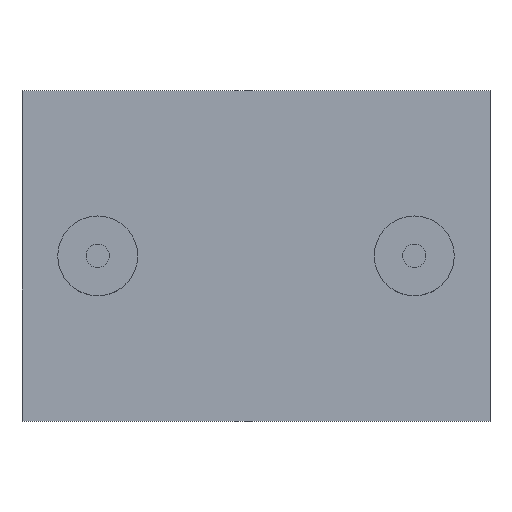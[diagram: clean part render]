
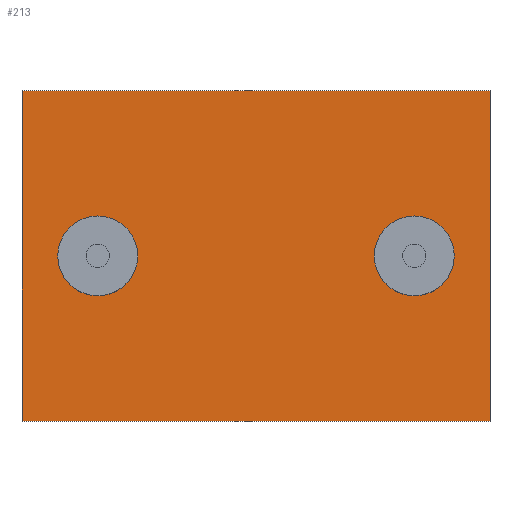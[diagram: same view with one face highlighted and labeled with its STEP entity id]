
A CAD part, top view. The second image highlights one B-rep face of the part: STEP entity #213.
In plain terms, the highlighted planar face has unit normal (0, 0, 1).
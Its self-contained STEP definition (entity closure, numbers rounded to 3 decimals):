
#24 = VERTEX_POINT('',#25);
#25 = CARTESIAN_POINT('',(-17.,-12.,3.));
#32 = PLANE('',#33);
#33 = AXIS2_PLACEMENT_3D('',#34,#35,#36);
#34 = CARTESIAN_POINT('',(-17.,-12.,0.));
#35 = DIRECTION('',(1.,0.,-0.));
#36 = DIRECTION('',(0.,0.,1.));
#44 = PLANE('',#45);
#45 = AXIS2_PLACEMENT_3D('',#46,#47,#48);
#46 = CARTESIAN_POINT('',(-17.,-12.,0.));
#47 = DIRECTION('',(-0.,1.,0.));
#48 = DIRECTION('',(0.,0.,1.));
#85 = VERTEX_POINT('',#86);
#86 = CARTESIAN_POINT('',(-17.,12.,3.));
#100 = PLANE('',#101);
#101 = AXIS2_PLACEMENT_3D('',#102,#103,#104);
#102 = CARTESIAN_POINT('',(-17.,12.,0.));
#103 = DIRECTION('',(-0.,1.,0.));
#104 = DIRECTION('',(0.,0.,1.));
#112 = EDGE_CURVE('',#24,#85,#113,.T.);
#113 = SURFACE_CURVE('',#114,(#118,#125),.PCURVE_S1.);
#114 = LINE('',#115,#116);
#115 = CARTESIAN_POINT('',(-17.,-12.,3.));
#116 = VECTOR('',#117,1.);
#117 = DIRECTION('',(-0.,1.,0.));
#118 = PCURVE('',#32,#119);
#119 = DEFINITIONAL_REPRESENTATION('',(#120),#124);
#120 = LINE('',#121,#122);
#121 = CARTESIAN_POINT('',(3.,0.));
#122 = VECTOR('',#123,1.);
#123 = DIRECTION('',(0.,-1.));
#124 = ( GEOMETRIC_REPRESENTATION_CONTEXT(2) 
PARAMETRIC_REPRESENTATION_CONTEXT() REPRESENTATION_CONTEXT('2D SPACE',''
  ) );
#125 = PCURVE('',#126,#131);
#126 = PLANE('',#127);
#127 = AXIS2_PLACEMENT_3D('',#128,#129,#130);
#128 = CARTESIAN_POINT('',(-17.,-12.,3.));
#129 = DIRECTION('',(0.,0.,1.));
#130 = DIRECTION('',(1.,0.,-0.));
#131 = DEFINITIONAL_REPRESENTATION('',(#132),#136);
#132 = LINE('',#133,#134);
#133 = CARTESIAN_POINT('',(0.,0.));
#134 = VECTOR('',#135,1.);
#135 = DIRECTION('',(0.,1.));
#136 = ( GEOMETRIC_REPRESENTATION_CONTEXT(2) 
PARAMETRIC_REPRESENTATION_CONTEXT() REPRESENTATION_CONTEXT('2D SPACE',''
  ) );
#165 = EDGE_CURVE('',#24,#166,#168,.T.);
#166 = VERTEX_POINT('',#167);
#167 = CARTESIAN_POINT('',(17.,-12.,3.));
#168 = SURFACE_CURVE('',#169,(#173,#180),.PCURVE_S1.);
#169 = LINE('',#170,#171);
#170 = CARTESIAN_POINT('',(-17.,-12.,3.));
#171 = VECTOR('',#172,1.);
#172 = DIRECTION('',(1.,0.,-0.));
#173 = PCURVE('',#44,#174);
#174 = DEFINITIONAL_REPRESENTATION('',(#175),#179);
#175 = LINE('',#176,#177);
#176 = CARTESIAN_POINT('',(3.,0.));
#177 = VECTOR('',#178,1.);
#178 = DIRECTION('',(0.,1.));
#179 = ( GEOMETRIC_REPRESENTATION_CONTEXT(2) 
PARAMETRIC_REPRESENTATION_CONTEXT() REPRESENTATION_CONTEXT('2D SPACE',''
  ) );
#180 = PCURVE('',#126,#181);
#181 = DEFINITIONAL_REPRESENTATION('',(#182),#186);
#182 = LINE('',#183,#184);
#183 = CARTESIAN_POINT('',(0.,0.));
#184 = VECTOR('',#185,1.);
#185 = DIRECTION('',(1.,0.));
#186 = ( GEOMETRIC_REPRESENTATION_CONTEXT(2) 
PARAMETRIC_REPRESENTATION_CONTEXT() REPRESENTATION_CONTEXT('2D SPACE',''
  ) );
#202 = PLANE('',#203);
#203 = AXIS2_PLACEMENT_3D('',#204,#205,#206);
#204 = CARTESIAN_POINT('',(17.,-12.,0.));
#205 = DIRECTION('',(1.,0.,-0.));
#206 = DIRECTION('',(0.,0.,1.));
#213 = ADVANCED_FACE('',(#214,#262,#293),#126,.T.);
#214 = FACE_BOUND('',#215,.T.);
#215 = EDGE_LOOP('',(#216,#217,#218,#241));
#216 = ORIENTED_EDGE('',*,*,#112,.F.);
#217 = ORIENTED_EDGE('',*,*,#165,.T.);
#218 = ORIENTED_EDGE('',*,*,#219,.T.);
#219 = EDGE_CURVE('',#166,#220,#222,.T.);
#220 = VERTEX_POINT('',#221);
#221 = CARTESIAN_POINT('',(17.,12.,3.));
#222 = SURFACE_CURVE('',#223,(#227,#234),.PCURVE_S1.);
#223 = LINE('',#224,#225);
#224 = CARTESIAN_POINT('',(17.,-12.,3.));
#225 = VECTOR('',#226,1.);
#226 = DIRECTION('',(-0.,1.,0.));
#227 = PCURVE('',#126,#228);
#228 = DEFINITIONAL_REPRESENTATION('',(#229),#233);
#229 = LINE('',#230,#231);
#230 = CARTESIAN_POINT('',(34.,0.));
#231 = VECTOR('',#232,1.);
#232 = DIRECTION('',(0.,1.));
#233 = ( GEOMETRIC_REPRESENTATION_CONTEXT(2) 
PARAMETRIC_REPRESENTATION_CONTEXT() REPRESENTATION_CONTEXT('2D SPACE',''
  ) );
#234 = PCURVE('',#202,#235);
#235 = DEFINITIONAL_REPRESENTATION('',(#236),#240);
#236 = LINE('',#237,#238);
#237 = CARTESIAN_POINT('',(3.,0.));
#238 = VECTOR('',#239,1.);
#239 = DIRECTION('',(0.,-1.));
#240 = ( GEOMETRIC_REPRESENTATION_CONTEXT(2) 
PARAMETRIC_REPRESENTATION_CONTEXT() REPRESENTATION_CONTEXT('2D SPACE',''
  ) );
#241 = ORIENTED_EDGE('',*,*,#242,.F.);
#242 = EDGE_CURVE('',#85,#220,#243,.T.);
#243 = SURFACE_CURVE('',#244,(#248,#255),.PCURVE_S1.);
#244 = LINE('',#245,#246);
#245 = CARTESIAN_POINT('',(-17.,12.,3.));
#246 = VECTOR('',#247,1.);
#247 = DIRECTION('',(1.,0.,-0.));
#248 = PCURVE('',#126,#249);
#249 = DEFINITIONAL_REPRESENTATION('',(#250),#254);
#250 = LINE('',#251,#252);
#251 = CARTESIAN_POINT('',(0.,24.));
#252 = VECTOR('',#253,1.);
#253 = DIRECTION('',(1.,0.));
#254 = ( GEOMETRIC_REPRESENTATION_CONTEXT(2) 
PARAMETRIC_REPRESENTATION_CONTEXT() REPRESENTATION_CONTEXT('2D SPACE',''
  ) );
#255 = PCURVE('',#100,#256);
#256 = DEFINITIONAL_REPRESENTATION('',(#257),#261);
#257 = LINE('',#258,#259);
#258 = CARTESIAN_POINT('',(3.,0.));
#259 = VECTOR('',#260,1.);
#260 = DIRECTION('',(0.,1.));
#261 = ( GEOMETRIC_REPRESENTATION_CONTEXT(2) 
PARAMETRIC_REPRESENTATION_CONTEXT() REPRESENTATION_CONTEXT('2D SPACE',''
  ) );
#262 = FACE_BOUND('',#263,.T.);
#263 = EDGE_LOOP('',(#264));
#264 = ORIENTED_EDGE('',*,*,#265,.F.);
#265 = EDGE_CURVE('',#266,#266,#268,.T.);
#266 = VERTEX_POINT('',#267);
#267 = CARTESIAN_POINT('',(-8.6,0.,3.));
#268 = SURFACE_CURVE('',#269,(#274,#281),.PCURVE_S1.);
#269 = CIRCLE('',#270,2.9);
#270 = AXIS2_PLACEMENT_3D('',#271,#272,#273);
#271 = CARTESIAN_POINT('',(-11.5,0.,3.));
#272 = DIRECTION('',(0.,0.,1.));
#273 = DIRECTION('',(1.,0.,-0.));
#274 = PCURVE('',#126,#275);
#275 = DEFINITIONAL_REPRESENTATION('',(#276),#280);
#276 = CIRCLE('',#277,2.9);
#277 = AXIS2_PLACEMENT_2D('',#278,#279);
#278 = CARTESIAN_POINT('',(5.5,12.));
#279 = DIRECTION('',(1.,0.));
#280 = ( GEOMETRIC_REPRESENTATION_CONTEXT(2) 
PARAMETRIC_REPRESENTATION_CONTEXT() REPRESENTATION_CONTEXT('2D SPACE',''
  ) );
#281 = PCURVE('',#282,#287);
#282 = CYLINDRICAL_SURFACE('',#283,2.9);
#283 = AXIS2_PLACEMENT_3D('',#284,#285,#286);
#284 = CARTESIAN_POINT('',(-11.5,0.,3.));
#285 = DIRECTION('',(0.,0.,1.));
#286 = DIRECTION('',(1.,0.,-0.));
#287 = DEFINITIONAL_REPRESENTATION('',(#288),#292);
#288 = LINE('',#289,#290);
#289 = CARTESIAN_POINT('',(0.,0.));
#290 = VECTOR('',#291,1.);
#291 = DIRECTION('',(1.,0.));
#292 = ( GEOMETRIC_REPRESENTATION_CONTEXT(2) 
PARAMETRIC_REPRESENTATION_CONTEXT() REPRESENTATION_CONTEXT('2D SPACE',''
  ) );
#293 = FACE_BOUND('',#294,.T.);
#294 = EDGE_LOOP('',(#295));
#295 = ORIENTED_EDGE('',*,*,#296,.F.);
#296 = EDGE_CURVE('',#297,#297,#299,.T.);
#297 = VERTEX_POINT('',#298);
#298 = CARTESIAN_POINT('',(14.4,0.,3.));
#299 = SURFACE_CURVE('',#300,(#305,#312),.PCURVE_S1.);
#300 = CIRCLE('',#301,2.9);
#301 = AXIS2_PLACEMENT_3D('',#302,#303,#304);
#302 = CARTESIAN_POINT('',(11.5,0.,3.));
#303 = DIRECTION('',(0.,0.,1.));
#304 = DIRECTION('',(1.,0.,-0.));
#305 = PCURVE('',#126,#306);
#306 = DEFINITIONAL_REPRESENTATION('',(#307),#311);
#307 = CIRCLE('',#308,2.9);
#308 = AXIS2_PLACEMENT_2D('',#309,#310);
#309 = CARTESIAN_POINT('',(28.5,12.));
#310 = DIRECTION('',(1.,0.));
#311 = ( GEOMETRIC_REPRESENTATION_CONTEXT(2) 
PARAMETRIC_REPRESENTATION_CONTEXT() REPRESENTATION_CONTEXT('2D SPACE',''
  ) );
#312 = PCURVE('',#313,#318);
#313 = CYLINDRICAL_SURFACE('',#314,2.9);
#314 = AXIS2_PLACEMENT_3D('',#315,#316,#317);
#315 = CARTESIAN_POINT('',(11.5,0.,3.));
#316 = DIRECTION('',(0.,0.,1.));
#317 = DIRECTION('',(1.,0.,-0.));
#318 = DEFINITIONAL_REPRESENTATION('',(#319),#323);
#319 = LINE('',#320,#321);
#320 = CARTESIAN_POINT('',(0.,0.));
#321 = VECTOR('',#322,1.);
#322 = DIRECTION('',(1.,0.));
#323 = ( GEOMETRIC_REPRESENTATION_CONTEXT(2) 
PARAMETRIC_REPRESENTATION_CONTEXT() REPRESENTATION_CONTEXT('2D SPACE',''
  ) );
